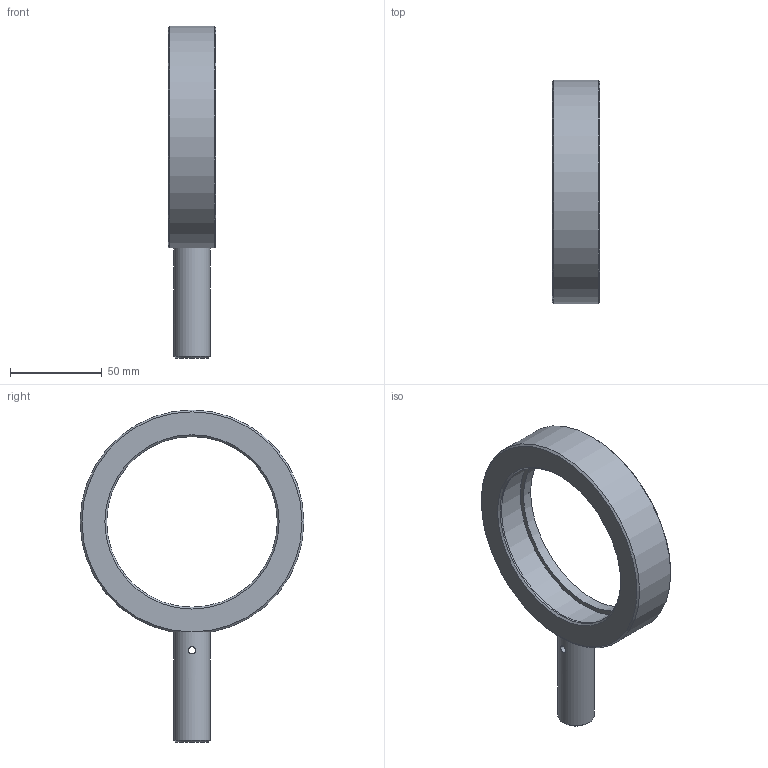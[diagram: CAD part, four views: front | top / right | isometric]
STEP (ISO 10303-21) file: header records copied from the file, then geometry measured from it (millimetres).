
FILE_DESCRIPTION((''),'2;1');
FILE_NAME('S:\1規格品図面ﾃﾞｰﾀ\OpticalHard\01_国内製品\2_Holders\LHF\LHF-100\LHF-100.stp','2007-01-19T16:39:41',('shimizu'),(''),'Autodesk Inventor 11','Autodesk Inventor 11','');
FILE_SCHEMA(('AUTOMOTIVE_DESIGN { 1 0 10303 214 1 1 1 1 }'));
Length unit declared in the file: millimetre
Products named in the file (1): LHF-100-C1-S01
Bounding box: 26 x 122 x 181 mm (x, y, z)
Volume: 123832.7 mm3; surface area: 32819.2 mm2
Topology: 3 solids, 3 shells, 32 faces, 68 edges, 44 vertices
Faces by surface type: plane 15, bspline 8, cylinder 5, cone 4
Full cylindrical faces by diameter (mm): 4 x1, 5 x1, 20 x1, 95 x1
Entity records: 995 total; most frequent: CARTESIAN_POINT 361, DIRECTION 124, ORIENTED_EDGE 104, AXIS2_PLACEMENT_3D 53, EDGE_CURVE 52, EDGE_LOOP 52, VERTEX_POINT 40, FACE_OUTER_BOUND 32
